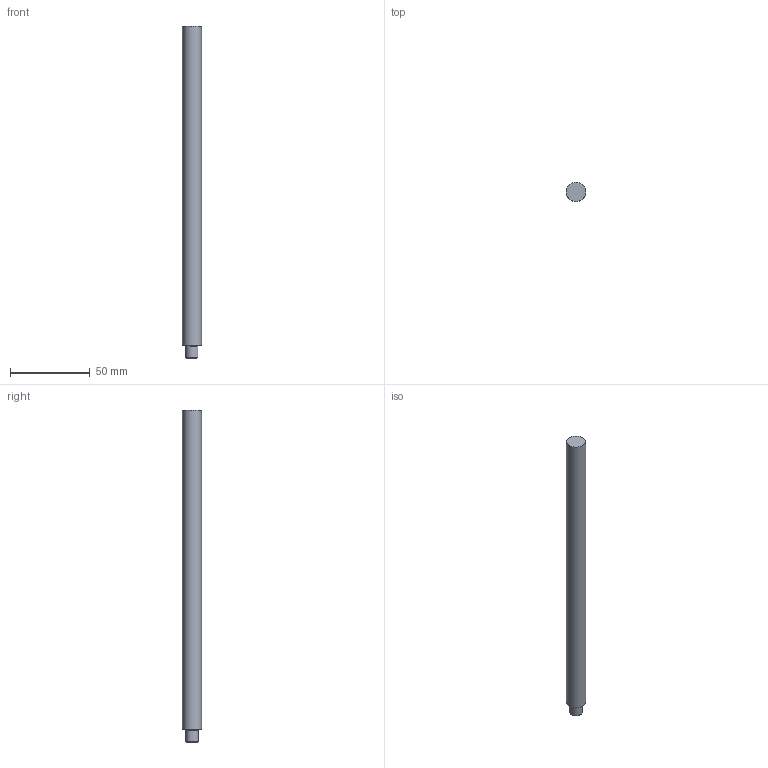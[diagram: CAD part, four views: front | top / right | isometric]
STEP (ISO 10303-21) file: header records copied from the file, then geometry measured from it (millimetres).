
FILE_DESCRIPTION (( 'STEP AP214' ), '1' );
FILE_NAME ('KKPHF Pin C_-_8-200.step', '2024-02-07T08:52:40', ( '' ), ( '' ), 'SwSTEP 2.0', 'SolidWorks 2020', '' );
FILE_SCHEMA (( 'AUTOMOTIVE_DESIGN' ));
Length unit declared in the file: millimetre
Products named in the file (1): KKPHF  Pin C_-_8-200
Bounding box: 12 x 12 x 207.9 mm (x, y, z)
Volume: 22914.9 mm3; surface area: 8057.5 mm2
Topology: 1 solids, 1 shells, 12 faces, 22 edges, 13 vertices
Faces by surface type: plane 5, cylinder 4, cone 2, torus 1
Full cylindrical faces by diameter (mm): 3.3 x1, 12 x1
Entity records: 323 total; most frequent: CARTESIAN_POINT 59, DIRECTION 48, ORIENTED_EDGE 36, AXIS2_PLACEMENT_3D 21, EDGE_CURVE 18, EDGE_LOOP 16, FACE_OUTER_BOUND 14, ADVANCED_FACE 12
